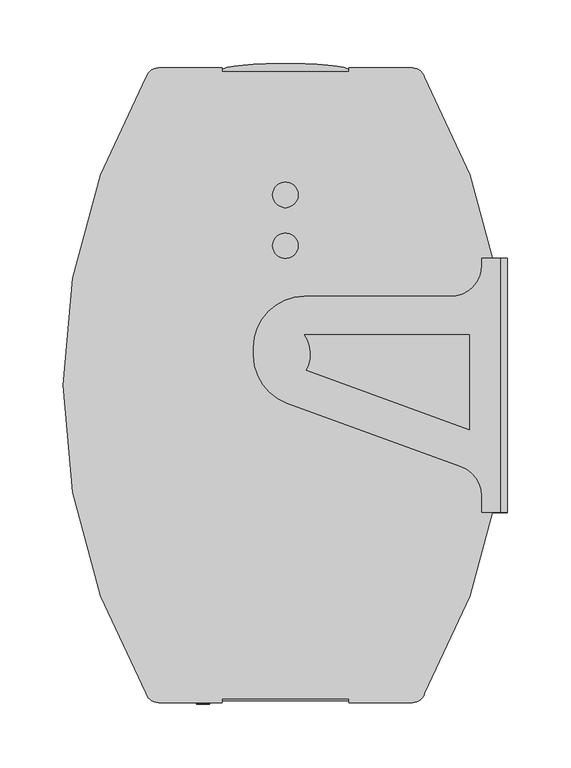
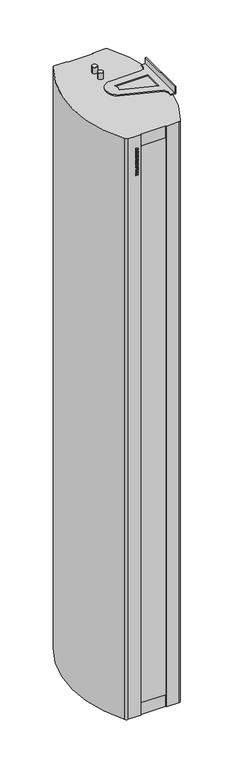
"""IFC4 building model written with IfcOpenShell, lengths in millimetres: proxy geometry, ADSK_Завеса дизайнерская_Водяная : KVC-S25W45-31."""

from ifc_helpers import new_model, si_unit, point, frame, origin, place, context, project, spatial, polyline, circle_curve, ellipse_curve, trimmed, outline, extrude, faceted_brep, source, transform, mapped, element, save
from ifc_brep_helpers import plane_surface, cylinder_surface, revolved_surface, extruded_surface, advanced_brep


def mechanical_equipment_d3ca2cf4(model_context):
    return source(origin(), model_context, "Body", "SolidModel", [
        advanced_brep(
        [(155.0, 100.0, -5.0), (170.0, 100.0, -5.0), (170.0, -100.0, -5.0), (155.0, -100.0, -5.0), (155.0, -87.5051885, -5.0), (138.5505036, -64.0128729, -5.0), (1.3191943, -14.0647611, -5.0), (-25.0, 23.5229437, -5.0), (-25.0, 30.0, -5.0), (15.0, 70.0, -5.0), (130.0, 70.0, -5.0), (155.0, 95.0, -5.0), (145.0, -34.8821335, -5.0), (145.0, 40.0, -5.0), (15.0, 40.0, -5.0), (16.5981063, 11.8523338, -5.0), (155.0, 100.0, 0.0), (155.0, 95.0, 0.0), (130.0, 70.0, 0.0), (15.0, 70.0, 0.0), (-25.0, 30.0, 0.0), (-25.0, 23.5229437, 0.0), (1.3191943, -14.0647611, 0.0), (138.5505036, -64.0128729, 0.0), (155.0, -87.5051885, 0.0), (155.0, -100.0, 0.0), (175.0, -100.0, 0.0), (175.0, 100.0, 0.0), (145.0, -34.8821335, 0.0), (16.5981063, 11.8523338, 0.0), (15.0, 40.0, 0.0), (145.0, 40.0, 0.0), (175.0, 100.0, -30.0), (170.0, 100.0, -30.0), (170.0, -100.0, -30.0), (175.0, -100.0, -30.0)],
        [
            (0, 1),
            (1, 2),
            (2, 3),
            (3, 4),
            (4, 5, circle_curve(frame((130.0, -87.5051885, -5.0), z_axis=(0.0, 0.0, 1.0), x_axis=(1.0, 0.0, 0.0)), 25.0)),
            (5, 6),
            (6, 7, circle_curve(frame((15.0, 23.5229437, -5.0), z_axis=(0.0, 0.0, -1.0), x_axis=(1.0, 0.0, 0.0)), 40.0)),
            (7, 8),
            (8, 9, circle_curve(frame((15.0, 30.0, -5.0), z_axis=(0.0, 0.0, -1.0), x_axis=(1.0, 0.0, 0.0)), 40.0)),
            (9, 10),
            (10, 11, circle_curve(frame((130.0, 95.0, -5.0), z_axis=(0.0, 0.0, 1.0), x_axis=(1.0, 0.0, 0.0)), 25.0)),
            (11, 0),
            (12, 13),
            (13, 14),
            (14, 15, circle_curve(frame((-7.1937545, 24.6207318, -5.0), z_axis=(0.0, 0.0, -1.0), x_axis=(1.0, 0.0, 0.0)), 27.0015672)),
            (15, 12),
            (16, 17),
            (17, 18, circle_curve(frame((130.0, 95.0, 0.0), z_axis=(0.0, 0.0, -1.0), x_axis=(1.0, 0.0, 0.0)), 25.0)),
            (18, 19),
            (19, 20, circle_curve(frame((15.0, 30.0, 0.0), z_axis=(0.0, 0.0, 1.0), x_axis=(1.0, 0.0, 0.0)), 40.0)),
            (20, 21),
            (21, 22, circle_curve(frame((15.0, 23.5229437, 0.0), z_axis=(0.0, 0.0, 1.0), x_axis=(1.0, 0.0, 0.0)), 40.0)),
            (22, 23),
            (23, 24, circle_curve(frame((130.0, -87.5051885, 0.0), z_axis=(0.0, 0.0, -1.0), x_axis=(1.0, 0.0, 0.0)), 25.0)),
            (24, 25),
            (25, 26),
            (26, 27),
            (27, 16),
            (28, 29),
            (29, 30, circle_curve(frame((-7.1937545, 24.6207318, 0.0), z_axis=(0.0, 0.0, 1.0), x_axis=(1.0, 0.0, 0.0)), 27.0015672)),
            (30, 31),
            (31, 28),
            (27, 32),
            (32, 33),
            (33, 1),
            (0, 16),
            (7, 21),
            (20, 8),
            (2, 34),
            (34, 35),
            (35, 26),
            (25, 3),
            (35, 32),
            (11, 17),
            (10, 18),
            (9, 19),
            (6, 22),
            (5, 23),
            (4, 24),
            (15, 29),
            (28, 12),
            (14, 30),
            (13, 31),
            (34, 33),
        ],
        [
            plane_surface(frame((-25.0, 100.0, -5.0), z_axis=(0.0, 0.0, -1.0), x_axis=(-1.0, 0.0, 0.0))),
            plane_surface(frame((-25.0, 100.0, 0.0), z_axis=(0.0, 0.0, 1.0), x_axis=(1.0, 0.0, 0.0))),
            plane_surface(frame((175.0, 100.0, -5.0), z_axis=(0.0, 1.0, 0.0), x_axis=(0.0, 0.0, 1.0))),
            plane_surface(frame((-25.0, 30.0, -5.0), z_axis=(-1.0, 0.0, 0.0), x_axis=(0.0, 0.0, 1.0))),
            plane_surface(frame((155.0, -100.0, -5.0), z_axis=(0.0, -1.0, 0.0), x_axis=(0.0, 0.0, 1.0))),
            plane_surface(frame((175.0, -100.0, -5.0), z_axis=(1.0, 0.0, 0.0), x_axis=(0.0, 0.0, 1.0))),
            plane_surface(frame((155.0, 100.0, -5.0), z_axis=(-1.0, 0.0, 0.0), x_axis=(0.0, 0.0, 1.0))),
            revolved_surface(polyline([(155.0, 95.0, 0.0), (155.0, 95.0, -5.0)]), (130.0, 95.0, 0.0), (0.0, 0.0, 1.0)),
            plane_surface(frame((130.0, 70.0, -5.0), z_axis=(0.0, 1.0, 0.0), x_axis=(0.0, 0.0, 1.0))),
            cylinder_surface(frame((15.0, 30.0, 0.0), z_axis=(0.0, 0.0, -1.0), x_axis=(1.0, 0.0, 0.0)), 40.0),
            cylinder_surface(frame((15.0, 23.5229437, 0.0), z_axis=(0.0, 0.0, -1.0), x_axis=(1.0, 0.0, 0.0)), 40.0),
            plane_surface(frame((1.3191943, -14.0647611, -5.0), z_axis=(-0.3420201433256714, -0.9396926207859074, 0.0), x_axis=(0.0, 0.0, 1.0))),
            revolved_surface(polyline([(155.0, -87.5051885, 0.0), (155.0, -87.5051885, -5.0)]), (130.0, -87.5051885, 0.0), (0.0, 0.0, 1.0)),
            plane_surface(frame((155.0, -87.5051885, -5.0), z_axis=(-1.0, 0.0, 0.0), x_axis=(0.0, 0.0, 1.0))),
            plane_surface(frame((145.0, -34.8821335, -5.0), z_axis=(0.3420201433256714, 0.9396926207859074, 0.0), x_axis=(0.0, 0.0, 1.0))),
            cylinder_surface(frame((-7.1937545, 24.6207318, 0.0), z_axis=(0.0, 0.0, -1.0), x_axis=(1.0, 0.0, 0.0)), 27.0015672),
            plane_surface(frame((15.0, 40.0, -5.0), z_axis=(0.0, -1.0, 0.0), x_axis=(0.0, 0.0, 1.0))),
            plane_surface(frame((145.0, 40.0, -5.0), z_axis=(-1.0, 0.0, 0.0), x_axis=(0.0, 0.0, 1.0))),
            plane_surface(frame((170.0, 126.8049179, -30.0), z_axis=(0.0, 0.0, -1.0), x_axis=(0.0, -1.0, 0.0))),
            plane_surface(frame((170.0, 100.0, -30.0), z_axis=(-1.0, 0.0, 0.0), x_axis=(0.0, 0.0, 1.0))),
        ],
        [
            (0, [[1, 2, 3, 4, 5, 6, 7, 8, 9, 10, 11, 12], [13, 14, 15, 16]]),
            (1, [[17, 18, 19, 20, 21, 22, 23, 24, 25, 26, 27, 28], [29, 30, 31, 32]]),
            (2, [[-28, 33, 34, 35, -1, 36]]),
            (3, [[37, -21, 38, -8]]),
            (4, [[-3, 39, 40, 41, -26, 42]]),
            (5, [[43, -33, -27, -41]]),
            (6, [[44, -17, -36, -12]]),
            (7, [[45, -18, -44, -11]]),
            (8, [[46, -19, -45, -10]]),
            (9, [[-38, -20, -46, -9]]),
            (10, [[47, -22, -37, -7]]),
            (11, [[48, -23, -47, -6]]),
            (12, [[49, -24, -48, -5]]),
            (13, [[-42, -25, -49, -4]]),
            (14, [[50, -29, 51, -16]]),
            (15, [[52, -30, -50, -15]]),
            (16, [[53, -31, -52, -14]]),
            (17, [[-51, -32, -53, -13]]),
            (18, [[-34, -43, -40, 54]]),
            (19, [[-39, -2, -35, -54]]),
        ],
    ),
        advanced_brep(
        [(155.0, 100.0, 2419.0), (155.0, 95.0, 2419.0), (130.0, 70.0, 2419.0), (15.0, 70.0, 2419.0), (-25.0, 30.0, 2419.0), (-25.0, 23.5229437, 2419.0), (1.3191943, -14.0647611, 2419.0), (138.5505036, -64.0128729, 2419.0), (155.0, -87.5051885, 2419.0), (155.0, -100.0, 2419.0), (170.0, -100.0, 2419.0), (170.0, 100.0, 2419.0), (145.0, -34.8821335, 2419.0), (16.5981063, 11.8523338, 2419.0), (15.0, 40.0, 2419.0), (145.0, 40.0, 2419.0), (155.0, 100.0, 2414.0), (175.0, 100.0, 2414.0), (175.0, -100.0, 2414.0), (155.0, -100.0, 2414.0), (155.0, -87.5051885, 2414.0), (138.5505036, -64.0128729, 2414.0), (1.3191943, -14.0647611, 2414.0), (-25.0, 23.5229437, 2414.0), (-25.0, 30.0, 2414.0), (15.0, 70.0, 2414.0), (130.0, 70.0, 2414.0), (155.0, 95.0, 2414.0), (145.0, -34.8821335, 2414.0), (145.0, 40.0, 2414.0), (15.0, 40.0, 2414.0), (16.5981063, 11.8523338, 2414.0), (170.0, 100.0, 2444.0), (175.0, 100.0, 2444.0), (175.0, -100.0, 2444.0), (170.0, -100.0, 2444.0)],
        [
            (0, 1),
            (1, 2, circle_curve(frame((130.0, 95.0, 2419.0), z_axis=(0.0, 0.0, -1.0), x_axis=(1.0, 0.0, 0.0)), 25.0)),
            (2, 3),
            (3, 4, circle_curve(frame((15.0, 30.0, 2419.0), z_axis=(0.0, 0.0, 1.0), x_axis=(1.0, 0.0, 0.0)), 40.0)),
            (4, 5),
            (5, 6, circle_curve(frame((15.0, 23.5229437, 2419.0), z_axis=(0.0, 0.0, 1.0), x_axis=(1.0, 0.0, 0.0)), 40.0)),
            (6, 7),
            (7, 8, circle_curve(frame((130.0, -87.5051885, 2419.0), z_axis=(0.0, 0.0, -1.0), x_axis=(1.0, 0.0, 0.0)), 25.0)),
            (8, 9),
            (9, 10),
            (10, 11),
            (11, 0),
            (12, 13),
            (13, 14, circle_curve(frame((-7.1937545, 24.6207318, 2419.0), z_axis=(0.0, 0.0, 1.0), x_axis=(1.0, 0.0, 0.0)), 27.0015672)),
            (14, 15),
            (15, 12),
            (16, 17),
            (17, 18),
            (18, 19),
            (19, 20),
            (20, 21, circle_curve(frame((130.0, -87.5051885, 2414.0), z_axis=(0.0, 0.0, 1.0), x_axis=(1.0, 0.0, 0.0)), 25.0)),
            (21, 22),
            (22, 23, circle_curve(frame((15.0, 23.5229437, 2414.0), z_axis=(0.0, 0.0, -1.0), x_axis=(1.0, 0.0, 0.0)), 40.0)),
            (23, 24),
            (24, 25, circle_curve(frame((15.0, 30.0, 2414.0), z_axis=(0.0, 0.0, -1.0), x_axis=(1.0, 0.0, 0.0)), 40.0)),
            (25, 26),
            (26, 27, circle_curve(frame((130.0, 95.0, 2414.0), z_axis=(0.0, 0.0, 1.0), x_axis=(1.0, 0.0, 0.0)), 25.0)),
            (27, 16),
            (28, 29),
            (29, 30),
            (30, 31, circle_curve(frame((-7.1937545, 24.6207318, 2414.0), z_axis=(0.0, 0.0, -1.0), x_axis=(1.0, 0.0, 0.0)), 27.0015672)),
            (31, 28),
            (16, 0),
            (11, 32),
            (32, 33),
            (33, 17),
            (4, 24),
            (23, 5),
            (9, 19),
            (18, 34),
            (34, 35),
            (35, 10),
            (33, 34),
            (27, 1),
            (26, 2),
            (25, 3),
            (22, 6),
            (21, 7),
            (20, 8),
            (12, 28),
            (31, 13),
            (30, 14),
            (29, 15),
            (32, 35),
        ],
        [
            plane_surface(frame((-25.0, 100.0, 2419.0), z_axis=(0.0, 0.0, 1.0), x_axis=(-1.0, 0.0, 0.0))),
            plane_surface(frame((-25.0, 100.0, 2414.0), z_axis=(0.0, 0.0, -1.0), x_axis=(1.0, 0.0, 0.0))),
            plane_surface(frame((175.0, 100.0, 2419.0), z_axis=(0.0, 1.0, 0.0), x_axis=(0.0, 0.0, -1.0))),
            plane_surface(frame((-25.0, 30.0, 2419.0), z_axis=(-1.0, 0.0, 0.0), x_axis=(0.0, 0.0, -1.0))),
            plane_surface(frame((155.0, -100.0, 2419.0), z_axis=(0.0, -1.0, 0.0), x_axis=(0.0, 0.0, -1.0))),
            plane_surface(frame((175.0, -100.0, 2419.0), z_axis=(1.0, 0.0, 0.0), x_axis=(0.0, 0.0, -1.0))),
            plane_surface(frame((155.0, 100.0, 2419.0), z_axis=(-1.0, 0.0, 0.0), x_axis=(0.0, 0.0, -1.0))),
            revolved_surface(polyline([(155.0, 95.0, 2414.0), (155.0, 95.0, 2419.0)]), (130.0, 95.0, 2414.0), (0.0, 0.0, -1.0)),
            plane_surface(frame((130.0, 70.0, 2419.0), z_axis=(0.0, 1.0, 0.0), x_axis=(0.0, 0.0, -1.0))),
            cylinder_surface(frame((15.0, 30.0, 2414.0), z_axis=(0.0, 0.0, 1.0), x_axis=(1.0, 0.0, 0.0)), 40.0),
            cylinder_surface(frame((15.0, 23.5229437, 2414.0), z_axis=(0.0, 0.0, 1.0), x_axis=(1.0, 0.0, 0.0)), 40.0),
            plane_surface(frame((1.3191943, -14.0647611, 2419.0), z_axis=(-0.3420201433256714, -0.9396926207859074, 0.0), x_axis=(0.0, 0.0, -1.0))),
            revolved_surface(polyline([(155.0, -87.5051885, 2414.0), (155.0, -87.5051885, 2419.0)]), (130.0, -87.5051885, 2414.0), (0.0, 0.0, -1.0)),
            plane_surface(frame((155.0, -87.5051885, 2419.0), z_axis=(-1.0, 0.0, 0.0), x_axis=(0.0, 0.0, -1.0))),
            plane_surface(frame((145.0, -34.8821335, 2419.0), z_axis=(0.3420201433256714, 0.9396926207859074, 0.0), x_axis=(0.0, 0.0, -1.0))),
            cylinder_surface(frame((-7.1937545, 24.6207318, 2414.0), z_axis=(0.0, 0.0, 1.0), x_axis=(1.0, 0.0, 0.0)), 27.0015672),
            plane_surface(frame((15.0, 40.0, 2419.0), z_axis=(0.0, -1.0, 0.0), x_axis=(0.0, 0.0, -1.0))),
            plane_surface(frame((145.0, 40.0, 2419.0), z_axis=(-1.0, 0.0, 0.0), x_axis=(0.0, 0.0, -1.0))),
            plane_surface(frame((170.0, 126.8049179, 2444.0), z_axis=(0.0, 0.0, 1.0), x_axis=(0.0, -1.0, 0.0))),
            plane_surface(frame((170.0, 100.0, 2444.0), z_axis=(-1.0, 0.0, 0.0), x_axis=(0.0, 0.0, -1.0))),
        ],
        [
            (0, [[1, 2, 3, 4, 5, 6, 7, 8, 9, 10, 11, 12], [13, 14, 15, 16]]),
            (1, [[17, 18, 19, 20, 21, 22, 23, 24, 25, 26, 27, 28], [29, 30, 31, 32]]),
            (2, [[33, -12, 34, 35, 36, -17]]),
            (3, [[-5, 37, -24, 38]]),
            (4, [[39, -19, 40, 41, 42, -10]]),
            (5, [[-40, -18, -36, 43]]),
            (6, [[-1, -33, -28, 44]]),
            (7, [[-2, -44, -27, 45]]),
            (8, [[-3, -45, -26, 46]]),
            (9, [[-4, -46, -25, -37]]),
            (10, [[-6, -38, -23, 47]]),
            (11, [[-7, -47, -22, 48]]),
            (12, [[-8, -48, -21, 49]]),
            (13, [[-9, -49, -20, -39]]),
            (14, [[-13, 50, -32, 51]]),
            (15, [[-14, -51, -31, 52]]),
            (16, [[-15, -52, -30, 53]]),
            (17, [[-16, -53, -29, -50]]),
            (18, [[54, -41, -43, -35]]),
            (19, [[-54, -34, -11, -42]]),
        ],
    ),
        extrude(outline(polyline([(2250.0784314, -70.0), (2250.0784314, -60.0), (2253.2156863, -60.0), (2253.2156863, -61.7647059), (2254.9865196, -63.7745098), (2256.8186275, -60.0), (2260.6666667, -60.0), (2257.192402, -66.2775735), (2260.4705882, -70.0), (2256.1997549, -70.0), (2253.2156863, -66.2224265), (2253.2156863, -70.0), (2250.0784314, -70.0)])), frame((0.0, -251.0, 0.0), z_axis=(0.0, 1.0, 0.0), x_axis=(0.0, 0.0, 1.0)), (0.0, 0.0, 1.0), 1.0),
        extrude(outline(polyline([(2267.6642157, -61.5686275), (2268.1176471, -60.0), (2271.4509804, -60.0), (2268.0778186, -70.0), (2264.0398284, -70.0), (2260.6666667, -60.0), (2264.0, -60.0), (2264.4319853, -61.5686275), (2267.6642157, -61.5686275)]), holes=[polyline([(2267.0698529, -63.9215686), (2265.0814951, -63.9215686), (2266.0588235, -67.4540441), (2267.0698529, -63.9215686)])]), frame((0.0, -251.0, 0.0), z_axis=(0.0, 1.0, 0.0), x_axis=(0.0, 0.0, 1.0)), (0.0, 0.0, 1.0), 1.0),
        extrude(outline(polyline([(2272.4313725, -70.0), (2272.4313725, -60.0), (2280.2745098, -60.0), (2280.2745098, -62.3529412), (2275.5686275, -62.3529412), (2275.5686275, -70.0), (2272.4313725, -70.0)])), frame((0.0, -251.0, 0.0), z_axis=(0.0, 1.0, 0.0), x_axis=(0.0, 0.0, 1.0)), (0.0, 0.0, 1.0), 1.0),
        extrude(outline(polyline([(2287.6642157, -61.5686275), (2288.1176471, -60.0), (2291.4509804, -60.0), (2288.0778186, -70.0), (2284.0398284, -70.0), (2280.6666667, -60.0), (2284.0, -60.0), (2284.4319853, -61.5686275), (2287.6642157, -61.5686275)]), holes=[polyline([(2287.0698529, -63.9215686), (2285.0814951, -63.9215686), (2286.0588235, -67.4540441), (2287.0698529, -63.9215686)])]), frame((0.0, -251.0, 0.0), z_axis=(0.0, 1.0, 0.0), x_axis=(0.0, 0.0, 1.0)), (0.0, 0.0, 1.0), 1.0),
        extrude(outline(polyline([(2291.8431373, -63.3394608), (2292.9491422, -60.8026961), (2296.4601716, -59.8039216), (2298.8560049, -60.2297794), (2300.3342525, -61.4813113), (2300.8627451, -63.28125), (2300.4675245, -64.7870711), (2299.2022059, -65.9129902), (2296.3223039, -66.8106618), (2296.1905637, -68.4313725), (2296.9641544, -68.1050858), (2297.3333333, -67.0588235), (2300.4705882, -67.2395833), (2299.2925858, -69.4883578), (2296.4172794, -70.1960784), (2293.9969363, -69.8039216), (2292.6749387, -68.7285539), (2292.2352941, -67.276348), (2293.1023284, -65.3492647), (2295.9761029, -64.1237745), (2297.7254902, -62.8186275), (2297.4114583, -62.0818015), (2296.5183824, -61.7647059), (2295.3204657, -62.3958333), (2294.9803922, -63.5294118), (2291.8431373, -63.3394608)])), frame((0.0, -251.0, 0.0), z_axis=(0.0, 1.0, 0.0), x_axis=(0.0, 0.0, 1.0)), (0.0, 0.0, 1.0), 1.0),
        extrude(outline(polyline([(2302.4313725, -70.0), (2302.4313725, -60.0), (2305.5686275, -60.0), (2305.5686275, -64.1176471), (2308.9019608, -64.1176471), (2308.9019608, -60.0), (2312.0392157, -60.0), (2312.0392157, -70.0), (2308.9019608, -70.0), (2308.9019608, -66.4705882), (2305.5686275, -66.4705882), (2305.5686275, -70.0), (2302.4313725, -70.0)])), frame((0.0, -251.0, 0.0), z_axis=(0.0, 1.0, 0.0), x_axis=(0.0, 0.0, 1.0)), (0.0, 0.0, 1.0), 1.0),
        extrude(outline(polyline([(2314.0, -70.0), (2314.0, -60.0), (2316.9411765, -60.0), (2316.9411765, -65.4901961), (2320.6666667, -60.0), (2323.6078431, -60.0), (2323.6078431, -70.0), (2320.6666667, -70.0), (2320.6666667, -64.4730392), (2316.9197304, -70.0), (2314.0, -70.0)])), frame((0.0, -251.0, 0.0), z_axis=(0.0, 1.0, 0.0), x_axis=(0.0, 0.0, 1.0)), (0.0, 0.0, 1.0), 1.0),
        extrude(outline(polyline([(-60.0, -251.0), (-70.0, -251.0), (-70.0, -250.0), (-60.0, -250.0), (-60.0, -251.0)])), frame((0.0, 0.0, 2325.7647059), z_axis=(0.0, 0.0, 1.0), x_axis=(1.0, 0.0, 0.0)), (0.0, 0.0, 1.0), 3.1372549),
        extrude(outline(polyline([(2331.0588235, -70.0), (2331.0588235, -60.0), (2334.1960784, -60.0), (2334.1960784, -61.7647059), (2335.9669118, -63.7745098), (2337.7990196, -60.0), (2341.6470588, -60.0), (2338.1727941, -66.2775735), (2341.4509804, -70.0), (2337.1801471, -70.0), (2334.1960784, -66.2224265), (2334.1960784, -70.0), (2331.0588235, -70.0)])), frame((0.0, -251.0, 0.0), z_axis=(0.0, 1.0, 0.0), x_axis=(0.0, 0.0, 1.0)), (0.0, 0.0, 1.0), 1.0),
        extrude(outline(polyline([(2342.2352941, -64.9938725), (2342.9261642, -62.0603554), (2344.7291667, -60.346201), (2347.5386029, -59.8039216), (2350.3250613, -60.4304534), (2352.036152, -62.1859681), (2352.627451, -65.0765931), (2351.2732843, -68.8495711), (2347.4129902, -70.1960784), (2343.6032475, -68.8250613), (2342.2352941, -64.9938725)]), holes=[polyline([(2345.372549, -64.9938725), (2345.9301471, -67.1813725), (2347.4068627, -67.8431373), (2348.9295343, -67.1920956), (2349.4901961, -65.1286765), (2348.9525123, -62.8048407), (2347.4344363, -62.1568627), (2345.9270833, -62.8186275), (2345.372549, -64.9938725)])]), frame((0.0, -251.0, 0.0), z_axis=(0.0, 1.0, 0.0), x_axis=(0.0, 0.0, 1.0)), (0.0, 0.0, 1.0), 1.0),
        extrude(outline(polyline([(2353.4117647, -70.0), (2357.1280637, -60.0), (2360.4583333, -60.0), (2364.1960784, -70.0), (2360.8627451, -70.0), (2358.8039216, -62.8033088), (2356.7420343, -70.0), (2353.4117647, -70.0)])), frame((0.0, -251.0, 0.0), z_axis=(0.0, 1.0, 0.0), x_axis=(0.0, 0.0, 1.0)), (0.0, 0.0, 1.0), 1.0),
        advanced_brep(
        [(-50.0, 250.0, 2414.0), (-100.0, 250.0, 2414.0), (-109.6523684, 242.6137681, 2414.0), (-109.6523684, -242.6137681, 2414.0), (-100.0, -250.0, 2414.0), (-50.0, -250.0, 2414.0), (-50.0, -247.0, 2414.0), (50.0, -247.0, 2414.0), (50.0, -250.0, 2414.0), (100.0, -250.0, 2414.0), (109.6523684, -242.6137681, 2414.0), (109.6523684, 242.6137681, 2414.0), (100.0, 250.0, 2414.0), (50.0, 250.0, 2414.0), (50.0, 247.0, 2414.0), (-50.0, 247.0, 2414.0), (10.0, 150.0, 2414.0), (-10.0, 150.0, 2414.0), (10.0, 110.0, 2414.0), (-10.0, 110.0, 2414.0), (-50.0, 250.0, 0.0), (-50.0, 247.0, 0.0), (50.0, 247.0, 0.0), (50.0, 250.0, 0.0), (100.0, 250.0, 0.0), (109.6523684, 242.6137681, 0.0), (109.6523684, -242.6137681, 0.0), (100.0, -250.0, 0.0), (50.0, -250.0, 0.0), (50.0, -247.0, 0.0), (-50.0, -247.0, 0.0), (-50.0, -250.0, 0.0), (-100.0, -250.0, 0.0), (-109.6523684, -242.6137681, 0.0), (-109.6523684, 242.6137681, 0.0), (-100.0, 250.0, 0.0), (-10.0, 150.0, 2439.0), (10.0, 150.0, 2439.0), (-10.0, 110.0, 2439.0), (10.0, 110.0, 2439.0)],
        [
            (0, 1),
            (1, 2, circle_curve(frame((-100.0, 240.0, 2414.0), z_axis=(0.0, 0.0, 1.0), x_axis=(1.0, 0.0, 0.0)), 10.0)),
            (2, 3, circle_curve(frame((308.0454594, 0.0, 2414.0), z_axis=(0.0, 0.0, 1.0), x_axis=(1.0, 0.0, 0.0)), 483.0454594)),
            (3, 4, circle_curve(frame((-100.0, -240.0, 2414.0), z_axis=(0.0, 0.0, 1.0), x_axis=(1.0, 0.0, 0.0)), 10.0)),
            (4, 5),
            (5, 6),
            (6, 7),
            (7, 8),
            (8, 9),
            (9, 10, circle_curve(frame((100.0, -240.0, 2414.0), z_axis=(0.0, 0.0, 1.0), x_axis=(1.0, 0.0, 0.0)), 10.0)),
            (10, 11, circle_curve(frame((-308.0454594, 0.0, 2414.0), z_axis=(0.0, 0.0, 1.0), x_axis=(1.0, 0.0, 0.0)), 483.0454594)),
            (11, 12, circle_curve(frame((100.0, 240.0, 2414.0), z_axis=(0.0, 0.0, 1.0), x_axis=(1.0, 0.0, 0.0)), 10.0)),
            (12, 13),
            (13, 14),
            (14, 15),
            (15, 0),
            (16, 17, circle_curve(frame((0.0, 150.0, 2414.0), z_axis=(0.0, 0.0, -1.0), x_axis=(1.0, 0.0, 0.0)), 10.0)),
            (17, 16, circle_curve(frame((0.0, 150.0, 2414.0), z_axis=(0.0, 0.0, -1.0), x_axis=(1.0, 0.0, 0.0)), 10.0)),
            (18, 19, circle_curve(frame((0.0, 110.0, 2414.0), z_axis=(0.0, 0.0, -1.0), x_axis=(1.0, 0.0, 0.0)), 10.0)),
            (19, 18, circle_curve(frame((0.0, 110.0, 2414.0), z_axis=(0.0, 0.0, -1.0), x_axis=(1.0, 0.0, 0.0)), 10.0)),
            (20, 21),
            (21, 22),
            (22, 23),
            (23, 24),
            (24, 25, circle_curve(frame((100.0, 240.0, 0.0), z_axis=(0.0, 0.0, -1.0), x_axis=(1.0, 0.0, 0.0)), 10.0)),
            (25, 26, circle_curve(frame((-308.0454594, 0.0, 0.0), z_axis=(0.0, 0.0, -1.0), x_axis=(1.0, 0.0, 0.0)), 483.0454594)),
            (26, 27, circle_curve(frame((100.0, -240.0, 0.0), z_axis=(0.0, 0.0, -1.0), x_axis=(1.0, 0.0, 0.0)), 10.0)),
            (27, 28),
            (28, 29),
            (29, 30),
            (30, 31),
            (31, 32),
            (32, 33, circle_curve(frame((-100.0, -240.0, 0.0), z_axis=(0.0, 0.0, -1.0), x_axis=(1.0, 0.0, 0.0)), 10.0)),
            (33, 34, circle_curve(frame((308.0454594, 0.0, 0.0), z_axis=(0.0, 0.0, -1.0), x_axis=(1.0, 0.0, 0.0)), 483.0454594)),
            (34, 35, circle_curve(frame((-100.0, 240.0, 0.0), z_axis=(0.0, 0.0, -1.0), x_axis=(1.0, 0.0, 0.0)), 10.0)),
            (35, 20),
            (0, 20),
            (35, 1),
            (34, 2),
            (33, 3),
            (32, 4),
            (8, 28),
            (27, 9),
            (31, 5),
            (30, 6),
            (29, 7),
            (12, 24),
            (23, 13),
            (22, 14),
            (21, 15),
            (36, 37, circle_curve(frame((0.0, 150.0, 2439.0), z_axis=(0.0, 0.0, 1.0), x_axis=(1.0, 0.0, 0.0)), 10.0)),
            (37, 36, circle_curve(frame((0.0, 150.0, 2439.0), z_axis=(0.0, 0.0, 1.0), x_axis=(1.0, 0.0, 0.0)), 10.0)),
            (38, 39, circle_curve(frame((0.0, 110.0, 2439.0), z_axis=(0.0, 0.0, 1.0), x_axis=(1.0, 0.0, 0.0)), 10.0)),
            (39, 38, circle_curve(frame((0.0, 110.0, 2439.0), z_axis=(0.0, 0.0, 1.0), x_axis=(1.0, 0.0, 0.0)), 10.0)),
            (36, 17),
            (16, 37),
            (38, 19),
            (18, 39),
            (26, 10),
            (25, 11),
        ],
        [
            plane_surface(frame((-93.2688019, 250.0, 2414.0), z_axis=(0.0, 0.0, 1.0), x_axis=(-1.0, 0.0, 0.0))),
            plane_surface(frame((-93.2688019, 250.0, 0.0), z_axis=(0.0, 0.0, -1.0), x_axis=(1.0, 0.0, 0.0))),
            plane_surface(frame((-50.0, 250.0, 2414.0), z_axis=(0.0, 1.0, 0.0), x_axis=(0.0, 0.0, -1.0))),
            cylinder_surface(frame((-100.0, 240.0, 0.0), z_axis=(0.0, 0.0, 1.0), x_axis=(1.0, 0.0, 0.0)), 10.0),
            cylinder_surface(frame((308.0454594, 0.0, 0.0), z_axis=(0.0, 0.0, 1.0), x_axis=(1.0, 0.0, 0.0)), 483.0454594),
            cylinder_surface(frame((-100.0, -240.0, 0.0), z_axis=(0.0, 0.0, 1.0), x_axis=(1.0, 0.0, 0.0)), 10.0),
            plane_surface(frame((50.0, -250.0, 2414.0), z_axis=(0.0, -1.0, 0.0), x_axis=(0.0, 0.0, -1.0))),
            plane_surface(frame((-100.0, -250.0, 2414.0), z_axis=(0.0, -1.0, 0.0), x_axis=(0.0, 0.0, -1.0))),
            plane_surface(frame((-50.0, -250.0, 2414.0), z_axis=(1.0, 0.0, 0.0), x_axis=(0.0, 0.0, -1.0))),
            plane_surface(frame((-50.0, -247.0, 2414.0), z_axis=(0.0, -1.0, 0.0), x_axis=(0.0, 0.0, -1.0))),
            plane_surface(frame((50.0, -247.0, 2414.0), z_axis=(-1.0, 0.0, 0.0), x_axis=(0.0, 0.0, -1.0))),
            plane_surface(frame((100.0, 250.0, 2414.0), z_axis=(0.0, 1.0, 0.0), x_axis=(0.0, 0.0, -1.0))),
            plane_surface(frame((50.0, 250.0, 2414.0), z_axis=(-1.0, 0.0, 0.0), x_axis=(0.0, 0.0, -1.0))),
            plane_surface(frame((50.0, 247.0, 2414.0), z_axis=(0.0, 1.0, 0.0), x_axis=(0.0, 0.0, -1.0))),
            plane_surface(frame((-50.0, 247.0, 2414.0), z_axis=(1.0, 0.0, 0.0), x_axis=(0.0, 0.0, -1.0))),
            plane_surface(frame((10.0, 150.0, 2439.0), z_axis=(0.0, 0.0, 1.0), x_axis=(0.0, 1.0, 0.0))),
            cylinder_surface(frame((0.0, 150.0, 2414.0), z_axis=(0.0, 0.0, 1.0), x_axis=(1.0, 0.0, 0.0)), 10.0),
            cylinder_surface(frame((0.0, 110.0, 0.0), z_axis=(0.0, 0.0, 1.0), x_axis=(1.0, 0.0, 0.0)), 10.0),
            cylinder_surface(frame((100.0, -240.0, 0.0), z_axis=(0.0, 0.0, 1.0), x_axis=(1.0, 0.0, 0.0)), 10.0),
            cylinder_surface(frame((-308.0454594, 0.0, 0.0), z_axis=(0.0, 0.0, 1.0), x_axis=(1.0, 0.0, 0.0)), 483.0454594),
            cylinder_surface(frame((100.0, 240.0, 0.0), z_axis=(0.0, 0.0, 1.0), x_axis=(1.0, 0.0, 0.0)), 10.0),
        ],
        [
            (0, [[1, 2, 3, 4, 5, 6, 7, 8, 9, 10, 11, 12, 13, 14, 15, 16], [17, 18], [19, 20]]),
            (1, [[21, 22, 23, 24, 25, 26, 27, 28, 29, 30, 31, 32, 33, 34, 35, 36]]),
            (2, [[-1, 37, -36, 38]]),
            (3, [[-2, -38, -35, 39]]),
            (4, [[-3, -39, -34, 40]]),
            (5, [[-4, -40, -33, 41]]),
            (6, [[-9, 42, -28, 43]]),
            (7, [[-5, -41, -32, 44]]),
            (8, [[-6, -44, -31, 45]]),
            (9, [[-7, -45, -30, 46]]),
            (10, [[-8, -46, -29, -42]]),
            (11, [[-13, 47, -24, 48]]),
            (12, [[-14, -48, -23, 49]]),
            (13, [[-15, -49, -22, 50]]),
            (14, [[-16, -50, -21, -37]]),
            (15, [[51, 52]]),
            (15, [[53, 54]]),
            (16, [[-51, 55, -17, 56]]),
            (16, [[-52, -56, -18, -55]]),
            (17, [[-53, 57, -19, 58]]),
            (17, [[-54, -58, -20, -57]]),
            (18, [[-10, -43, -27, 59]]),
            (19, [[-11, -59, -26, 60]]),
            (20, [[-12, -60, -25, -47]]),
        ],
    ),
        faceted_brep([(50.0, -247.0, 2364.0), (-50.0, -247.0, 2364.0), (-50.0, -248.5, 2364.0), (50.0, -248.5, 2364.0), (50.0, -247.0, 50.0), (50.0, -248.5, 50.0), (-50.0, -248.5, 50.0), (-50.0, -247.0, 50.0)], [[[0, 1, 2, 3]], [[4, 5, 6, 7]], [[1, 0, 4, 7]], [[2, 1, 7, 6]], [[3, 2, 6, 5]], [[0, 3, 5, 4]]]),
        advanced_brep(
        [(-50.0, 248.5, 2364.0), (-50.0, 247.0, 2364.0), (50.0, 247.0, 2364.0), (50.0, 248.5, 2364.0), (-50.0, 248.5, 50.0), (50.0, 248.5, 50.0), (50.0, 247.0, 50.0), (-50.0, 247.0, 50.0)],
        [
            (0, 1),
            (1, 2),
            (2, 3),
            (3, 0, ellipse_curve(frame((0.0, 248.5, 2364.0), z_axis=(0.0, 0.0, 1.0), x_axis=(-1.0, 0.0, 0.0)), 50.0, 5.0)),
            (4, 5, ellipse_curve(frame((0.0, 248.5, 50.0), z_axis=(0.0, 0.0, -1.0), x_axis=(-1.0, 0.0, 0.0)), 50.0, 5.0)),
            (5, 6),
            (6, 7),
            (7, 4),
            (0, 4),
            (7, 1),
            (6, 2),
            (5, 3),
        ],
        [
            plane_surface(frame((-50.0, -247.0, 2364.0), z_axis=(0.0, 0.0, 1.0), x_axis=(-1.0, 0.0, 0.0))),
            plane_surface(frame((-50.0, -247.0, 50.0), z_axis=(0.0, 0.0, -1.0), x_axis=(1.0, 0.0, 0.0))),
            plane_surface(frame((-50.0, 248.5, 2364.0), z_axis=(-1.0, 0.0, 0.0), x_axis=(0.0, 0.0, -1.0))),
            plane_surface(frame((-50.0, 247.0, 2364.0), z_axis=(0.0, -1.0, 0.0), x_axis=(0.0, 0.0, -1.0))),
            plane_surface(frame((50.0, 247.0, 2364.0), z_axis=(1.0, 0.0, 0.0), x_axis=(0.0, 0.0, -1.0))),
            extruded_surface(trimmed(ellipse_curve(frame((0.0, 248.5, -2314.0), z_axis=(0.0, 0.0, 1.0), x_axis=(-1.0, 0.0, 0.0)), 50.0, 5.0), [point((50.0, 248.5, -2314.0))], [point((-50.0, 248.5, -2314.0))], True, "CARTESIAN"), (0.0, 0.0, 2314.0), 2314.0),
        ],
        [
            (0, [[1, 2, 3, 4]]),
            (1, [[5, 6, 7, 8]]),
            (2, [[-1, 9, -8, 10]]),
            (3, [[-2, -10, -7, 11]]),
            (4, [[-3, -11, -6, 12]]),
            (5, [[-4, -12, -5, -9]]),
        ],
    ),
    ])


if __name__ == "__main__":
    model = new_model("IFC4")
    model_context = context("Model", 3, world=origin())
    ifc_project = project(units=[si_unit("LENGTHUNIT", "METRE", prefix="MILLI")], contexts=[model_context])
    site = spatial("IfcSite", under=ifc_project)
    building = spatial("IfcBuilding", under=site)
    placement = place(None, origin())
    mechanical_equipment_shape = mechanical_equipment_d3ca2cf4(model_context)
    element("IfcBuildingElementProxy", 1, Name="ADSK_Завеса дизайнерская_Водяная : KVC-S25W45-31", ObjectType="ADSK_Завеса дизайнерская_Водяная : KVC-S25W45-31", at=placement, inside=building, context=model_context, shape_type="MappedRepresentation", body=[
        mapped(mechanical_equipment_shape, transform((0.0, 0.0, 0.0), x_axis=(1.0, 0.0, 0.0), y_axis=(0.0, 1.0, 0.0), z_axis=(0.0, 0.0, 1.0))),
    ])
    save(model, "model.ifc")
